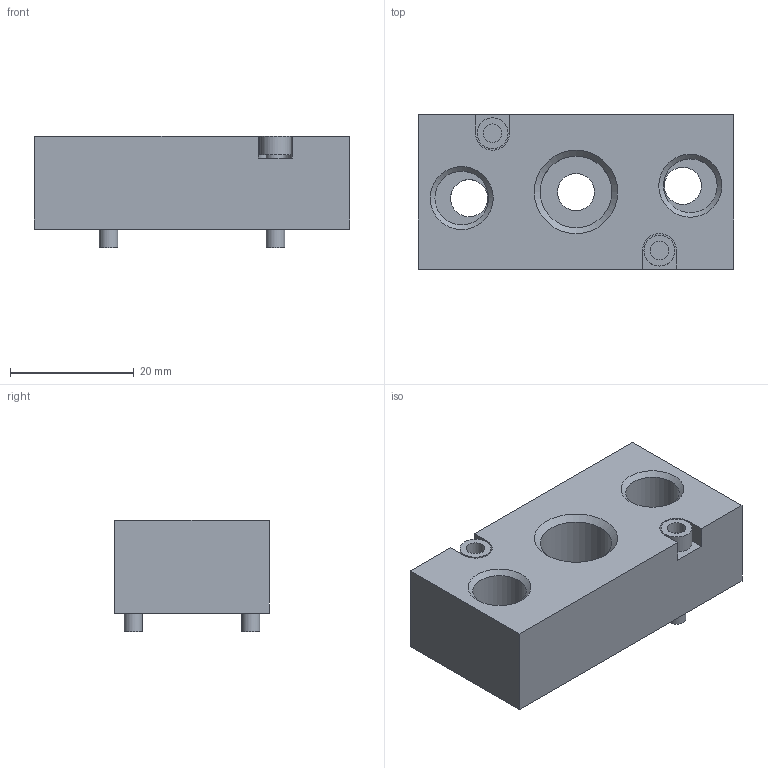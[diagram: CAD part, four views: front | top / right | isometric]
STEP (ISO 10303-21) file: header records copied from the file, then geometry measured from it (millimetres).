
FILE_DESCRIPTION((''),'2;1');
FILE_NAME('I:\Area Tecnica\Disegni\VARIE-3D\Componenti\400\STEP\T488_32.stp','2008-10-10T08:11:40',('pilonfr1'),(''),'Autodesk Inventor 2009','Autodesk Inventor 2009','');
FILE_SCHEMA(('AUTOMOTIVE_DESIGN { 1 0 10303 214 1 1 1 1 }'));
Length unit declared in the file: millimetre
Products named in the file (1): T488_32
Bounding box: 51 x 25 x 18 mm (x, y, z)
Volume: 16130.2 mm3; surface area: 6177.1 mm2
Topology: 1 solids, 1 shells, 42 faces, 84 edges, 55 vertices
Faces by surface type: plane 20, bspline 12, cylinder 10
Full cylindrical faces by diameter (mm): 3 x6, 5 x2
Entity records: 1229 total; most frequent: CARTESIAN_POINT 327, DIRECTION 164, ORIENTED_EDGE 134, EDGE_LOOP 76, EDGE_CURVE 67, AXIS2_PLACEMENT_3D 66, VERTEX_POINT 55, STYLED_ITEM 43
